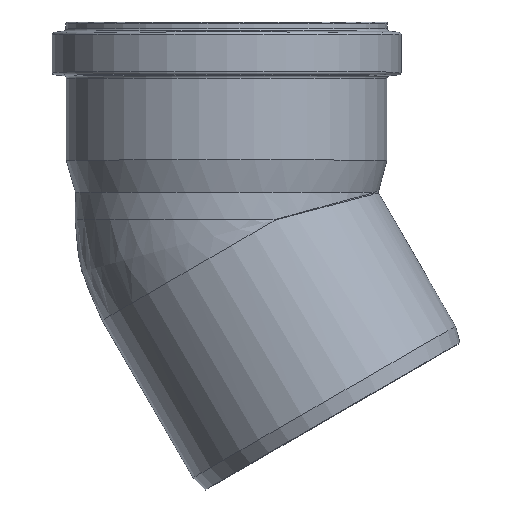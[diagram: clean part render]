
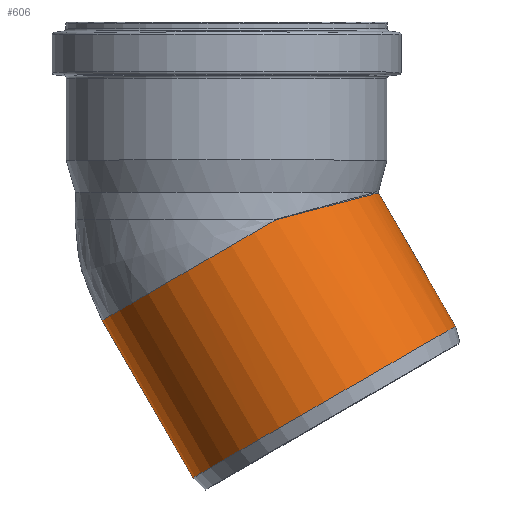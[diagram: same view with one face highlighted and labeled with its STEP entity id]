
A CAD part, top view. The second image highlights one B-rep face of the part: STEP entity #606.
In plain terms, the highlighted cylindrical face has radius 55.1 mm (diameter 110.2 mm), a full revolution.
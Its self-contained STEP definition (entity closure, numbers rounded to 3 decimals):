
#40=CYLINDRICAL_SURFACE('',#702,55.1);
#54=LINE('',#1293,#71);
#71=VECTOR('',#876,55.1);
#113=CIRCLE('',#701,55.1);
#114=CIRCLE('',#703,55.1);
#169=FACE_OUTER_BOUND('',#207,.T.);
#207=EDGE_LOOP('',(#508,#509,#510,#511,#512,#513,#514,#515));
#226=B_SPLINE_CURVE_WITH_KNOTS('',3,(#1069,#1070,#1071,#1072),
 .UNSPECIFIED.,.F.,.F.,(4,4),(9.872,11.266),
 .UNSPECIFIED.);
#227=B_SPLINE_CURVE_WITH_KNOTS('',3,(#1074,#1075,#1076,#1077,#1078),
 .UNSPECIFIED.,.F.,.F.,(4,1,4),(11.266,11.503,12.66),
 .UNSPECIFIED.);
#232=ELLIPSE('',#643,57.114,55.1);
#233=ELLIPSE('',#644,57.114,55.1);
#239=VERTEX_POINT('',#983);
#240=VERTEX_POINT('',#997);
#244=VERTEX_POINT('',#1068);
#245=VERTEX_POINT('',#1073);
#247=VERTEX_POINT('',#1136);
#278=VERTEX_POINT('',#1291);
#300=EDGE_CURVE('',#239,#240,#232,.T.);
#305=EDGE_CURVE('',#240,#244,#226,.T.);
#306=EDGE_CURVE('',#244,#245,#227,.T.);
#309=EDGE_CURVE('',#245,#247,#233,.T.);
#359=EDGE_CURVE('',#239,#247,#113,.T.);
#360=EDGE_CURVE('',#278,#278,#114,.T.);
#361=EDGE_CURVE('',#278,#244,#54,.T.);
#508=ORIENTED_EDGE('',*,*,#360,.F.);
#509=ORIENTED_EDGE('',*,*,#361,.T.);
#510=ORIENTED_EDGE('',*,*,#305,.F.);
#511=ORIENTED_EDGE('',*,*,#300,.F.);
#512=ORIENTED_EDGE('',*,*,#359,.T.);
#513=ORIENTED_EDGE('',*,*,#309,.F.);
#514=ORIENTED_EDGE('',*,*,#306,.F.);
#515=ORIENTED_EDGE('',*,*,#361,.F.);
#606=ADVANCED_FACE('',(#169),#40,.T.);
#643=AXIS2_PLACEMENT_3D('',#998,#744,#745);
#644=AXIS2_PLACEMENT_3D('',#1137,#746,#747);
#701=AXIS2_PLACEMENT_3D('',#1289,#870,#871);
#702=AXIS2_PLACEMENT_3D('',#1290,#872,#873);
#703=AXIS2_PLACEMENT_3D('',#1292,#874,#875);
#744=DIRECTION('center_axis',(-0.254,0.967,0.));
#745=DIRECTION('ref_axis',(0.967,0.254,0.));
#746=DIRECTION('center_axis',(-0.254,0.967,0.));
#747=DIRECTION('ref_axis',(0.967,0.254,0.));
#870=DIRECTION('center_axis',(0.5,-0.866,0.));
#871=DIRECTION('ref_axis',(0.866,0.5,0.));
#872=DIRECTION('center_axis',(0.5,-0.866,0.));
#873=DIRECTION('ref_axis',(-0.866,-0.5,0.));
#874=DIRECTION('center_axis',(0.5,-0.866,0.));
#875=DIRECTION('ref_axis',(0.866,0.5,0.));
#876=DIRECTION('',(-0.5,0.866,0.));
#983=CARTESIAN_POINT('',(18.017,-0.163,52.086));
#997=CARTESIAN_POINT('',(53.542,9.183,13.533));
#998=CARTESIAN_POINT('Origin',(0.,-4.903,
0.));
#1068=CARTESIAN_POINT('',(55.318,9.482,0.));
#1069=CARTESIAN_POINT('Ctrl Pts',(53.541,9.183,13.533));
#1070=CARTESIAN_POINT('Ctrl Pts',(54.716,9.378,9.127));
#1071=CARTESIAN_POINT('Ctrl Pts',(55.316,9.481,4.563));
#1072=CARTESIAN_POINT('Ctrl Pts',(55.318,9.482,0.));
#1073=CARTESIAN_POINT('',(53.542,9.183,-13.533));
#1074=CARTESIAN_POINT('Ctrl Pts',(55.318,9.482,0.));
#1075=CARTESIAN_POINT('Ctrl Pts',(55.318,9.483,-0.775));
#1076=CARTESIAN_POINT('Ctrl Pts',(55.219,9.466,-5.339));
#1077=CARTESIAN_POINT('Ctrl Pts',(54.518,9.346,-9.875));
#1078=CARTESIAN_POINT('Ctrl Pts',(53.542,9.183,-13.533));
#1136=CARTESIAN_POINT('',(18.017,-0.163,-52.086));
#1137=CARTESIAN_POINT('Origin',(0.,-4.903,
0.));
#1289=CARTESIAN_POINT('Origin',(2.452,-9.15,0.));
#1290=CARTESIAN_POINT('Origin',(18.976,-37.771,0.));
#1291=CARTESIAN_POINT('',(83.218,-38.841,0.));
#1292=CARTESIAN_POINT('Origin',(35.5,-66.391,0.));
#1293=CARTESIAN_POINT('',(66.694,-10.221,0.));
